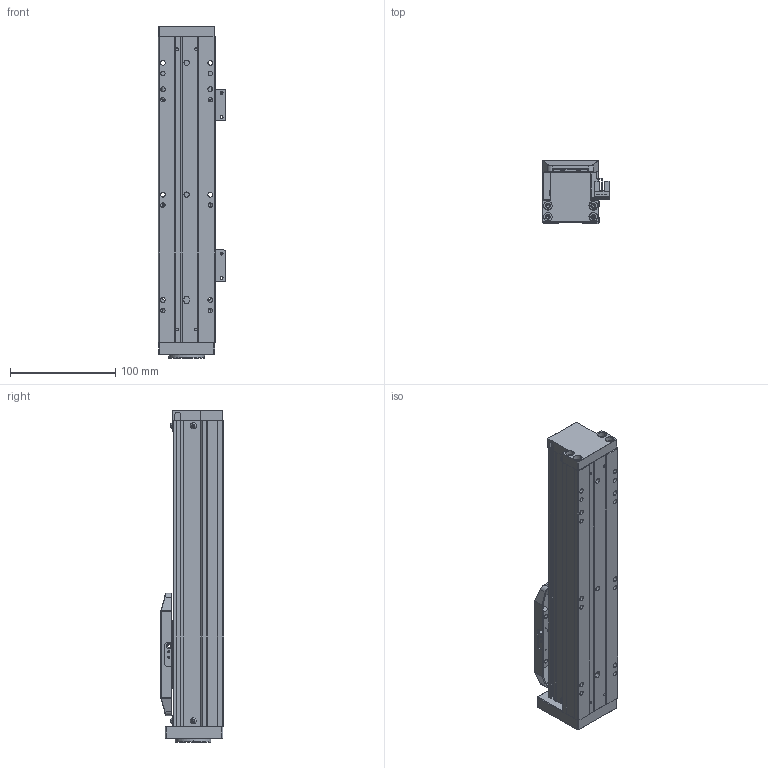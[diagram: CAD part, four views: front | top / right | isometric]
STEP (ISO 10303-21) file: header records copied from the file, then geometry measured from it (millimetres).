
FILE_DESCRIPTION (( 'STEP AP203' ), '1' );
FILE_NAME ('KTH5-L10-S150.STEP', '2019-12-19T08:15:16', ( '微软用户' ), ( '微软中国' ), 'SwSTEP 2.0', 'SolidWorks 2017', '' );
FILE_SCHEMA (( 'CONFIG_CONTROL_DESIGN' ));
Length unit declared in the file: millimetre
Products named in the file (16): 詩湍; KTH5-L10-S150; 詩湍揤啣; GB╱T 70.1-2008[内六角圆柱头螺钉M4×16]_M4×16; LES50-001菁釱; GB╱T 70.2-2008[内六角平圆头螺钉M3×10]_M3×10; LES50-004賑釱; ヶ裔-党蜊唳; 耜啣; 粣創釱-郔笝唳20190813; 階裔; 嫖萇羲壽諉揖え; 棠沭; EE-SX674; LES50-013癹弇菜; EE-SX674WR嫖萇羲壽假蚾啣
Assembly tree (31 placements, depth 2):
  KTH5-L10-S150
    LES50-001菁釱
    LES50-004賑釱
    耜啣  x2
    階裔
    棠沭  x2
    LES50-013癹弇菜  x2
    詩湍
    詩湍揤啣  x2
    GB╱T 70.1-2008[内六角圆柱头螺钉M4×16]_M4×16  x4
    GB╱T 70.2-2008[内六角平圆头螺钉M3×10]_M3×10  x8
    ヶ裔-党蜊唳
    粣創釱-郔笝唳20190813
    嫖萇羲壽諉揖え
    EE-SX674  x2
    EE-SX674WR嫖萇羲壽假蚾啣  x2
Bounding box: 64.25 x 60 x 315 mm (x, y, z)
Volume: 361915.3 mm3; surface area: 203747.8 mm2
Topology: 31 solids, 31 shells, 1369 faces, 3308 edges, 2030 vertices
Faces by surface type: plane 654, cylinder 431, cone 220, torus 36, sphere 16, bspline 12
Entity records: 31298 total; most frequent: CARTESIAN_POINT 5577, DIRECTION 5068, ORIENTED_EDGE 4708, EDGE_CURVE 2354, AXIS2_PLACEMENT_3D 1776, LINE 1516, VECTOR 1516, VERTEX_POINT 1495
